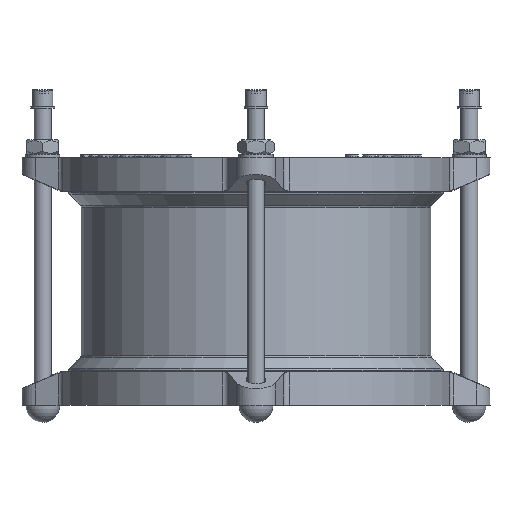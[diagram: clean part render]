
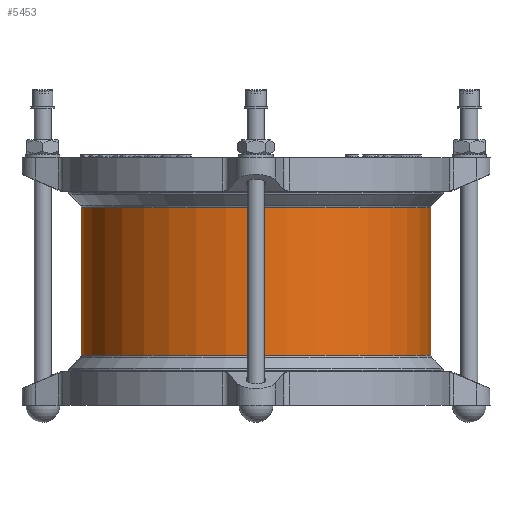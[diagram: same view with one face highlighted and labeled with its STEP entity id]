
A CAD part, front view. The second image highlights one B-rep face of the part: STEP entity #5453.
In plain terms, the highlighted cylindrical face has radius 122.5 mm (diameter 245 mm), a full revolution.
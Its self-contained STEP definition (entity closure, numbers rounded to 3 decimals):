
#5453=ADVANCED_FACE('',(#10065,#10067),#10069,.T.);
#10065=FACE_OUTER_BOUND('',#10066,.T.);
#10066=EDGE_LOOP('',(#15071));
#10067=FACE_OUTER_BOUND('',#10068,.T.);
#10068=EDGE_LOOP('',(#15072));
#10069=CYLINDRICAL_SURFACE('',#10070,122.5);
#10070=AXIS2_PLACEMENT_3D('',#10071,#10072,#10073);
#10071=CARTESIAN_POINT('',(0.,0.,52.714));
#10072=DIRECTION('',(0.,0.,-1.));
#10073=DIRECTION('',(0.,1.,0.));
#15071=ORIENTED_EDGE('',*,*,#17191,.T.);
#15072=ORIENTED_EDGE('',*,*,#17192,.F.);
#17191=EDGE_CURVE('',#20073,#20073,#20074,.T.);
#17192=EDGE_CURVE('',#20075,#20075,#20076,.T.);
#20073=VERTEX_POINT('',#29142);
#20074=CIRCLE('',#29143,122.5);
#20075=VERTEX_POINT('',#29147);
#20076=CIRCLE('',#29148,122.5);
#29142=CARTESIAN_POINT('',(0.,122.5,51.679));
#29143=AXIS2_PLACEMENT_3D('',#29144,#29145,#29146);
#29144=CARTESIAN_POINT('',(0.,0.,51.679));
#29145=DIRECTION('',(0.,0.,-1.));
#29146=DIRECTION('',(0.,1.,0.));
#29147=CARTESIAN_POINT('',(0.,122.5,-51.679));
#29148=AXIS2_PLACEMENT_3D('',#29149,#29150,#29151);
#29149=CARTESIAN_POINT('',(0.,0.,-51.679));
#29150=DIRECTION('',(0.,0.,-1.));
#29151=DIRECTION('',(0.,1.,0.));
